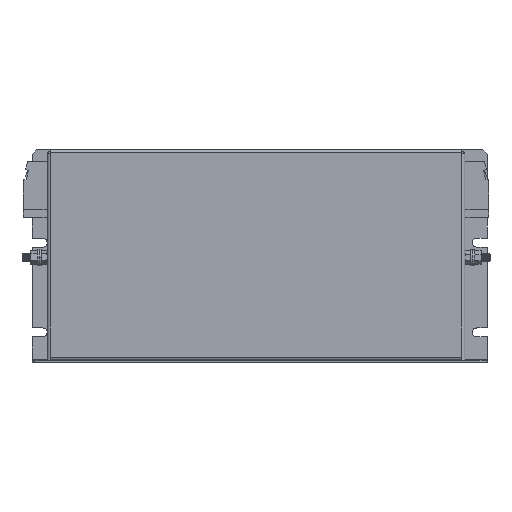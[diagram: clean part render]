
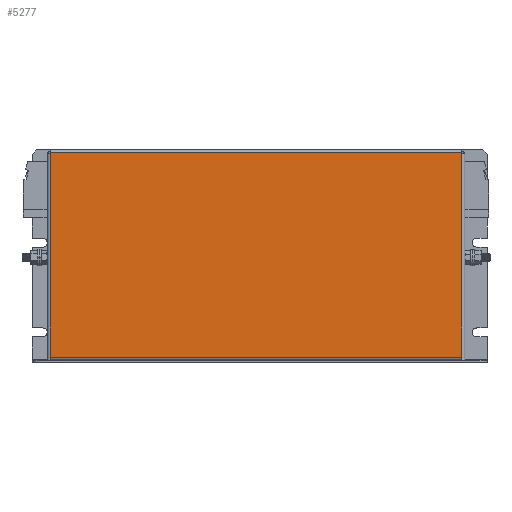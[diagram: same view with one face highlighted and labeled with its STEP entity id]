
A CAD part, top view. The second image highlights one B-rep face of the part: STEP entity #5277.
In plain terms, the highlighted planar face has unit normal (0, 0, 1).
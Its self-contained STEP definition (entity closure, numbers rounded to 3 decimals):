
#13 = VECTOR ( 'NONE', #7671, 1000. ) ;
#723 = DIRECTION ( 'NONE',  ( 0., 1., 0. ) ) ;
#779 = VERTEX_POINT ( 'NONE', #1488 ) ;
#1488 = CARTESIAN_POINT ( 'NONE',  ( 0., 2.2, 1.2 ) ) ;
#1626 = CARTESIAN_POINT ( 'NONE',  ( 0., 138.6, 1.2 ) ) ;
#1742 = DIRECTION ( 'NONE',  ( -1., 0., 0. ) ) ;
#1834 = CARTESIAN_POINT ( 'NONE',  ( 0., 2.2, 1.2 ) ) ;
#2098 = CARTESIAN_POINT ( 'NONE',  ( 274.6, 0., 1.2 ) ) ;
#2447 = EDGE_LOOP ( 'NONE', ( #11353, #11954, #4013, #9840, #3860, #6717 ) ) ;
#3177 = CARTESIAN_POINT ( 'NONE',  ( 0., 138.35, 1.2 ) ) ;
#3269 = CARTESIAN_POINT ( 'NONE',  ( 0., 0., 1.2 ) ) ;
#3758 = VERTEX_POINT ( 'NONE', #3177 ) ;
#3860 = ORIENTED_EDGE ( 'NONE', *, *, #6425, .T. ) ;
#4013 = ORIENTED_EDGE ( 'NONE', *, *, #13694, .T. ) ;
#4098 = LINE ( 'NONE', #10145, #18008 ) ;
#4438 = DIRECTION ( 'NONE',  ( 0., 0., -1. ) ) ;
#4440 = FACE_OUTER_BOUND ( 'NONE', #2447, .T. ) ;
#4686 = DIRECTION ( 'NONE',  ( -1., 0., 0. ) ) ;
#4717 = DIRECTION ( 'NONE',  ( 0., -1., 0. ) ) ;
#4894 = VERTEX_POINT ( 'NONE', #14598 ) ;
#5064 = LINE ( 'NONE', #13489, #10873 ) ;
#5188 = LINE ( 'NONE', #1834, #13 ) ;
#5277 = ADVANCED_FACE ( 'NONE', ( #4440 ), #7445, .F. ) ;
#5564 = LINE ( 'NONE', #2098, #9373 ) ;
#6372 = CARTESIAN_POINT ( 'NONE',  ( 274.6, 2.2, 1.2 ) ) ;
#6425 = EDGE_CURVE ( 'NONE', #12948, #3758, #14321, .T. ) ;
#6717 = ORIENTED_EDGE ( 'NONE', *, *, #14017, .T. ) ;
#7445 = PLANE ( 'NONE',  #10616 ) ;
#7671 = DIRECTION ( 'NONE',  ( 1., 0., 0. ) ) ;
#8737 = DIRECTION ( 'NONE',  ( 0., -1., 0. ) ) ;
#9373 = VECTOR ( 'NONE', #723, 1000. ) ;
#9432 = VERTEX_POINT ( 'NONE', #16804 ) ;
#9840 = ORIENTED_EDGE ( 'NONE', *, *, #16015, .T. ) ;
#10145 = CARTESIAN_POINT ( 'NONE',  ( 274.6, 0., 1.2 ) ) ;
#10616 = AXIS2_PLACEMENT_3D ( 'NONE', #1626, #4438, #1742 ) ;
#10873 = VECTOR ( 'NONE', #4686, 1000. ) ;
#11353 = ORIENTED_EDGE ( 'NONE', *, *, #11882, .T. ) ;
#11667 = DIRECTION ( 'NONE',  ( 0., 1., 0. ) ) ;
#11882 = EDGE_CURVE ( 'NONE', #779, #12203, #5188, .T. ) ;
#11954 = ORIENTED_EDGE ( 'NONE', *, *, #13142, .T. ) ;
#12203 = VERTEX_POINT ( 'NONE', #6372 ) ;
#12948 = VERTEX_POINT ( 'NONE', #15400 ) ;
#13142 = EDGE_CURVE ( 'NONE', #12203, #9432, #4098, .T. ) ;
#13489 = CARTESIAN_POINT ( 'NONE',  ( 0., 138.6, 1.2 ) ) ;
#13694 = EDGE_CURVE ( 'NONE', #9432, #4894, #5564, .T. ) ;
#14017 = EDGE_CURVE ( 'NONE', #3758, #779, #16057, .T. ) ;
#14321 = LINE ( 'NONE', #3269, #16873 ) ;
#14598 = CARTESIAN_POINT ( 'NONE',  ( 274.6, 138.6, 1.2 ) ) ;
#15400 = CARTESIAN_POINT ( 'NONE',  ( 0., 138.6, 1.2 ) ) ;
#15849 = VECTOR ( 'NONE', #8737, 1000. ) ;
#16015 = EDGE_CURVE ( 'NONE', #4894, #12948, #5064, .T. ) ;
#16057 = LINE ( 'NONE', #16896, #15849 ) ;
#16804 = CARTESIAN_POINT ( 'NONE',  ( 274.6, 138.35, 1.2 ) ) ;
#16873 = VECTOR ( 'NONE', #4717, 1000. ) ;
#16896 = CARTESIAN_POINT ( 'NONE',  ( 0., 138.35, 1.2 ) ) ;
#18008 = VECTOR ( 'NONE', #11667, 1000. ) ;
